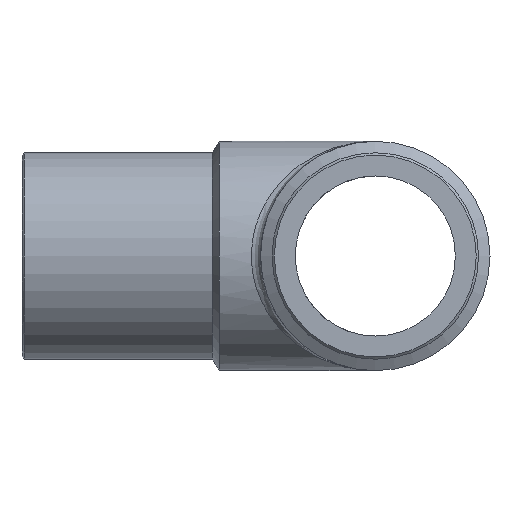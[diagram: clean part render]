
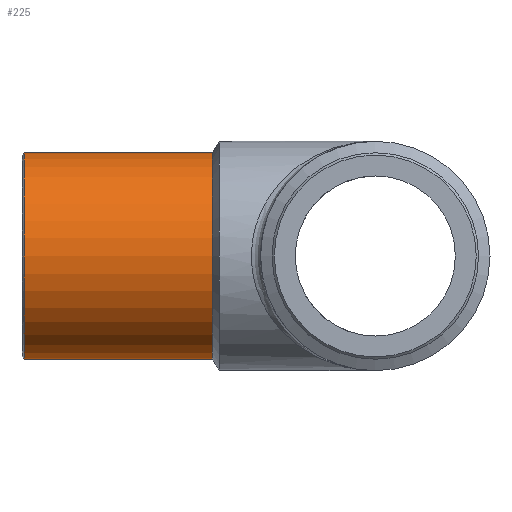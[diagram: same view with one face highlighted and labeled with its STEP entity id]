
A CAD part, left-side view. The second image highlights one B-rep face of the part: STEP entity #225.
In plain terms, the highlighted cylindrical face has radius 45 mm (diameter 90 mm), a full revolution.
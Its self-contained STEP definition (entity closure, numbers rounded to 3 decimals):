
#44=CIRCLE('',#275,45.);
#45=CIRCLE('',#277,45.);
#76=ORIENTED_EDGE('',*,*,#108,.T.);
#77=ORIENTED_EDGE('',*,*,#107,.F.);
#107=EDGE_CURVE('',#126,#126,#44,.T.);
#108=EDGE_CURVE('',#127,#127,#45,.F.);
#126=VERTEX_POINT('',#407);
#127=VERTEX_POINT('',#410);
#160=EDGE_LOOP('',(#76));
#161=EDGE_LOOP('',(#77));
#196=FACE_BOUND('',#160,.T.);
#197=FACE_BOUND('',#161,.T.);
#212=CYLINDRICAL_SURFACE('',#276,45.);
#225=ADVANCED_FACE('',(#196,#197),#212,.T.);
#275=AXIS2_PLACEMENT_3D('',#406,#345,#346);
#276=AXIS2_PLACEMENT_3D('',#408,#347,#348);
#277=AXIS2_PLACEMENT_3D('',#409,#349,#350);
#345=DIRECTION('',(0.,-1.,0.));
#346=DIRECTION('',(1.,0.,0.));
#347=DIRECTION('',(0.,-1.,0.));
#348=DIRECTION('',(1.,0.,0.));
#349=DIRECTION('',(0.,1.,0.));
#350=DIRECTION('',(-1.,0.,0.));
#406=CARTESIAN_POINT('',(0.,71.,0.));
#407=CARTESIAN_POINT('',(45.,71.,0.));
#408=CARTESIAN_POINT('',(0.,0.,0.));
#409=CARTESIAN_POINT('',(0.,153.,0.));
#410=CARTESIAN_POINT('',(-45.,153.,0.));
